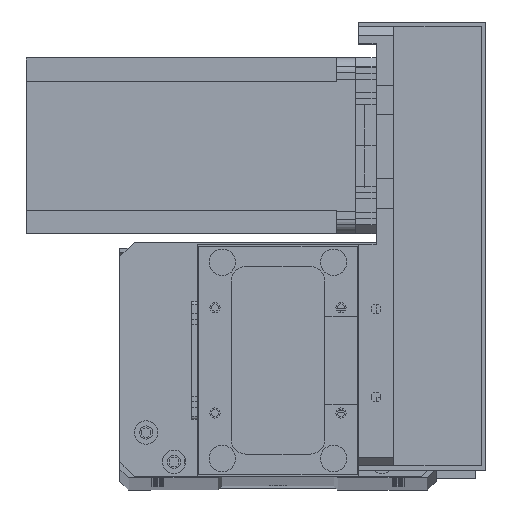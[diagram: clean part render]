
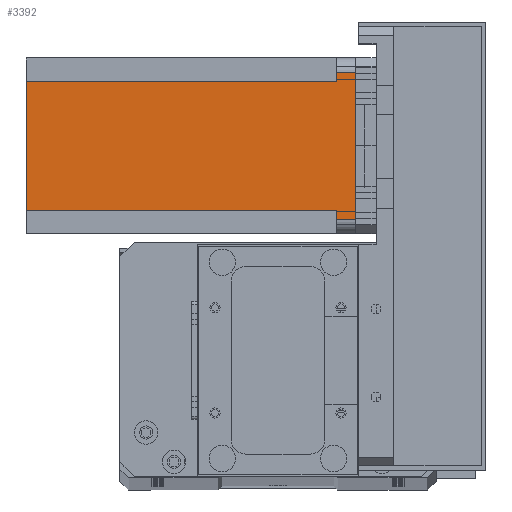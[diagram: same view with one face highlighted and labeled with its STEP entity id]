
A CAD part, top view. The second image highlights one B-rep face of the part: STEP entity #3392.
In plain terms, the highlighted planar face has unit normal (0, 0, 1) as drawn and (0, 1, 0) by its records, which use the part's own axes.
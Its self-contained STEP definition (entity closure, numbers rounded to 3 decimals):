
#15 = CARTESIAN_POINT ( 'NONE',  ( 8., 60., -6.5 ) ) ;
#1411 = LINE ( 'NONE', #18234, #21990 ) ;
#1462 = LINE ( 'NONE', #10804, #28117 ) ;
#2481 = CARTESIAN_POINT ( 'NONE',  ( 55., 60., 0. ) ) ;
#2793 = DIRECTION ( 'NONE',  ( 0., 0., 1. ) ) ;
#3384 = VERTEX_POINT ( 'NONE', #28870 ) ;
#3392 = ADVANCED_FACE ( 'NONE', ( #30966 ), #21285, .T. ) ;
#3946 = VECTOR ( 'NONE', #17035, 1000. ) ;
#4393 = ORIENTED_EDGE ( 'NONE', *, *, #12336, .F. ) ;
#4498 = VECTOR ( 'NONE', #25312, 1000. ) ;
#5203 = DIRECTION ( 'NONE',  ( 1., 0., 0. ) ) ;
#5206 = LINE ( 'NONE', #15, #6015 ) ;
#5705 = VERTEX_POINT ( 'NONE', #26822 ) ;
#5848 = CARTESIAN_POINT ( 'NONE',  ( 0., 60., -112.5 ) ) ;
#6015 = VECTOR ( 'NONE', #28341, 1000. ) ;
#6570 = CARTESIAN_POINT ( 'NONE',  ( 5., 60., 0. ) ) ;
#6596 = CARTESIAN_POINT ( 'NONE',  ( 8., 60., -112.5 ) ) ;
#6810 = CARTESIAN_POINT ( 'NONE',  ( 0., 60., 0. ) ) ;
#6812 = CARTESIAN_POINT ( 'NONE',  ( 0., 60., -112.5 ) ) ;
#7801 = CARTESIAN_POINT ( 'NONE',  ( 52., 60., -6.5 ) ) ;
#7844 = EDGE_CURVE ( 'NONE', #8500, #25393, #23567, .T. ) ;
#8002 = CARTESIAN_POINT ( 'NONE',  ( 55., 60., -6.5 ) ) ;
#8500 = VERTEX_POINT ( 'NONE', #33257 ) ;
#9874 = VECTOR ( 'NONE', #22033, 1000. ) ;
#10014 = LINE ( 'NONE', #6810, #3946 ) ;
#10804 = CARTESIAN_POINT ( 'NONE',  ( 52., 60., -112.5 ) ) ;
#11382 = LINE ( 'NONE', #22734, #4498 ) ;
#11405 = EDGE_CURVE ( 'NONE', #31242, #19087, #10014, .T. ) ;
#11648 = EDGE_CURVE ( 'NONE', #24073, #14177, #16425, .T. ) ;
#12336 = EDGE_CURVE ( 'NONE', #8500, #24073, #1462, .T. ) ;
#12698 = EDGE_CURVE ( 'NONE', #31242, #14177, #11382, .T. ) ;
#14177 = VERTEX_POINT ( 'NONE', #8002 ) ;
#14478 = ORIENTED_EDGE ( 'NONE', *, *, #12698, .T. ) ;
#15908 = LINE ( 'NONE', #6596, #9874 ) ;
#16204 = DIRECTION ( 'NONE',  ( 0., 0., 1. ) ) ;
#16425 = LINE ( 'NONE', #7801, #29387 ) ;
#16680 = VECTOR ( 'NONE', #22256, 1000. ) ;
#16744 = CARTESIAN_POINT ( 'NONE',  ( 52., 60., -6.5 ) ) ;
#17035 = DIRECTION ( 'NONE',  ( -1., 0., 0. ) ) ;
#17451 = EDGE_CURVE ( 'NONE', #5705, #19087, #1411, .T. ) ;
#17454 = CARTESIAN_POINT ( 'NONE',  ( 8., 60., -112.5 ) ) ;
#17581 = ORIENTED_EDGE ( 'NONE', *, *, #11405, .F. ) ;
#18234 = CARTESIAN_POINT ( 'NONE',  ( 5., 60., -112.5 ) ) ;
#19087 = VERTEX_POINT ( 'NONE', #6570 ) ;
#20368 = ORIENTED_EDGE ( 'NONE', *, *, #17451, .T. ) ;
#20421 = ORIENTED_EDGE ( 'NONE', *, *, #7844, .T. ) ;
#21285 = PLANE ( 'NONE',  #32257 ) ;
#21792 = ORIENTED_EDGE ( 'NONE', *, *, #21965, .T. ) ;
#21965 = EDGE_CURVE ( 'NONE', #3384, #5705, #5206, .T. ) ;
#21990 = VECTOR ( 'NONE', #2793, 1000. ) ;
#22033 = DIRECTION ( 'NONE',  ( 0., 0., -1. ) ) ;
#22256 = DIRECTION ( 'NONE',  ( -1., 0., 0. ) ) ;
#22734 = CARTESIAN_POINT ( 'NONE',  ( 55., 60., -112.5 ) ) ;
#23567 = LINE ( 'NONE', #6812, #16680 ) ;
#23648 = DIRECTION ( 'NONE',  ( 0., 0., 1. ) ) ;
#23829 = ORIENTED_EDGE ( 'NONE', *, *, #24727, .F. ) ;
#24073 = VERTEX_POINT ( 'NONE', #16744 ) ;
#24727 = EDGE_CURVE ( 'NONE', #3384, #25393, #15908, .T. ) ;
#24746 = EDGE_LOOP ( 'NONE', ( #17581, #14478, #27118, #4393, #20421, #23829, #21792, #20368 ) ) ;
#25312 = DIRECTION ( 'NONE',  ( 0., 0., -1. ) ) ;
#25393 = VERTEX_POINT ( 'NONE', #17454 ) ;
#26822 = CARTESIAN_POINT ( 'NONE',  ( 5., 60., -6.5 ) ) ;
#27118 = ORIENTED_EDGE ( 'NONE', *, *, #11648, .F. ) ;
#28117 = VECTOR ( 'NONE', #23648, 1000. ) ;
#28341 = DIRECTION ( 'NONE',  ( -1., 0., 0. ) ) ;
#28870 = CARTESIAN_POINT ( 'NONE',  ( 8., 60., -6.5 ) ) ;
#29387 = VECTOR ( 'NONE', #5203, 1000. ) ;
#30966 = FACE_OUTER_BOUND ( 'NONE', #24746, .T. ) ;
#31242 = VERTEX_POINT ( 'NONE', #2481 ) ;
#31710 = DIRECTION ( 'NONE',  ( 0., 1., 0. ) ) ;
#32257 = AXIS2_PLACEMENT_3D ( 'NONE', #5848, #31710, #16204 ) ;
#33257 = CARTESIAN_POINT ( 'NONE',  ( 52., 60., -112.5 ) ) ;
